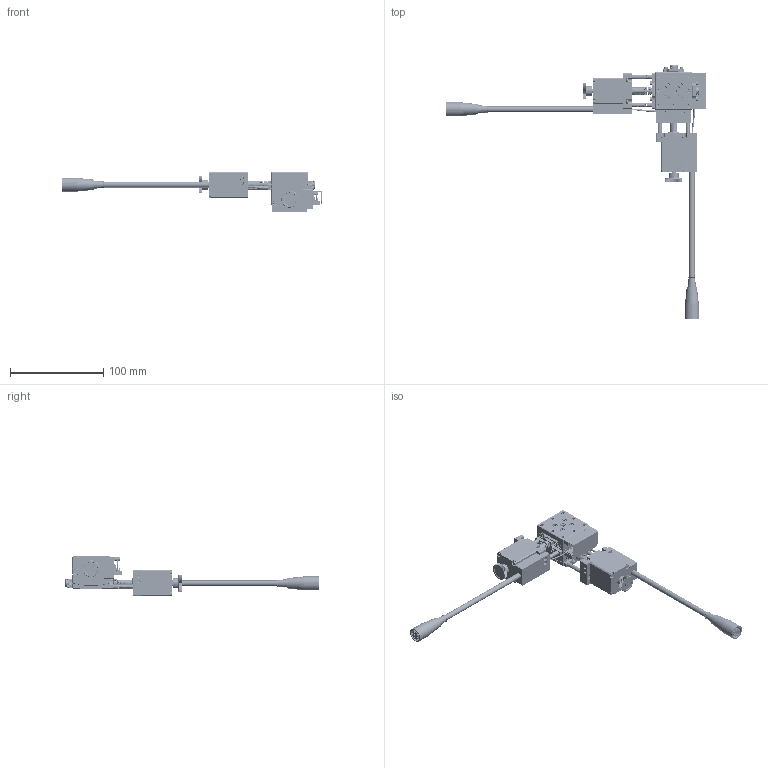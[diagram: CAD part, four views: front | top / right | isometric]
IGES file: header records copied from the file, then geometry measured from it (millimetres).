
Start section:  PTC IGES file: PHTM-40B40R-1.igs
Global section: file name: PHTM-40B40R-1.igs; native system: Creo Parametric by Parametric Technology Corporation; preprocessor: 2014000; author: Administrator; organization: Unknown; date: 20201030.135242; units: millimetre
Bounding box: 278.5 x 271.55 x 43.61 mm (x, y, z)
Surface area: 95415.1 mm2 (no closed solid volume)
Topology: 0 solids, 97 shells, 5979 faces, 15671 edges, 10103 vertices
Faces by surface type: bspline 3543, revolution 2396, extrusion 40
